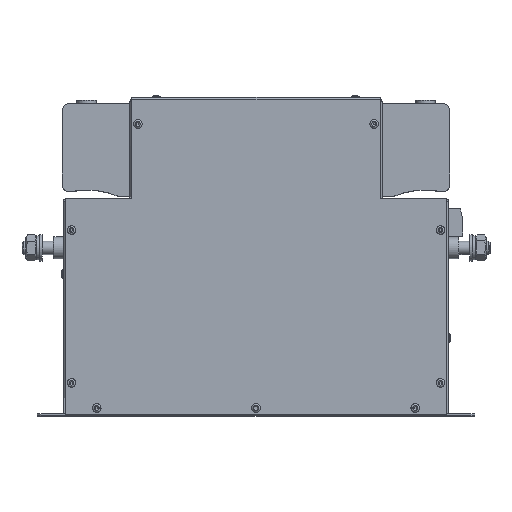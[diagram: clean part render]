
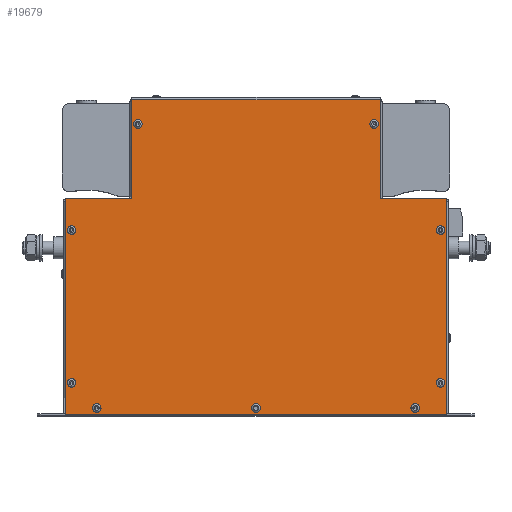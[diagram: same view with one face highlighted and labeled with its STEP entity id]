
A CAD part, top view. The second image highlights one B-rep face of the part: STEP entity #19679.
In plain terms, the highlighted planar face has unit normal (0, 0, 1).
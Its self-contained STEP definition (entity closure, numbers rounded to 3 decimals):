
#1487=LINE('',#33454,#2843);
#1490=LINE('',#33459,#2846);
#1492=LINE('',#33463,#2848);
#1493=LINE('',#33465,#2849);
#1494=LINE('',#33467,#2850);
#1495=LINE('',#33469,#2851);
#1496=LINE('',#33471,#2852);
#1497=LINE('',#33473,#2853);
#1498=LINE('',#33475,#2854);
#1499=LINE('',#33476,#2855);
#2843=VECTOR('',#26528,10.);
#2846=VECTOR('',#26533,10.);
#2848=VECTOR('',#26537,10.);
#2849=VECTOR('',#26538,10.);
#2850=VECTOR('',#26539,10.);
#2851=VECTOR('',#26540,10.);
#2852=VECTOR('',#26541,10.);
#2853=VECTOR('',#26542,10.);
#2854=VECTOR('',#26543,10.);
#2855=VECTOR('',#26544,10.);
#3947=FACE_BOUND('',#6698,.T.);
#3948=FACE_BOUND('',#6699,.T.);
#3949=FACE_BOUND('',#6700,.T.);
#3950=FACE_BOUND('',#6701,.T.);
#3951=FACE_BOUND('',#6702,.T.);
#3952=FACE_BOUND('',#6703,.T.);
#3953=FACE_BOUND('',#6704,.T.);
#3954=FACE_BOUND('',#6705,.T.);
#3955=FACE_BOUND('',#6706,.T.);
#5060=FACE_OUTER_BOUND('',#6697,.T.);
#6697=EDGE_LOOP('',(#16099,#16100,#16101,#16102,#16103,#16104,#16105,#16106,
#16107,#16108));
#6698=EDGE_LOOP('',(#16109));
#6699=EDGE_LOOP('',(#16110));
#6700=EDGE_LOOP('',(#16111));
#6701=EDGE_LOOP('',(#16112));
#6702=EDGE_LOOP('',(#16113));
#6703=EDGE_LOOP('',(#16114));
#6704=EDGE_LOOP('',(#16115));
#6705=EDGE_LOOP('',(#16116));
#6706=EDGE_LOOP('',(#16117));
#7289=CIRCLE('',#20655,3.25);
#7304=CIRCLE('',#20683,3.25);
#7319=CIRCLE('',#20711,3.25);
#7334=CIRCLE('',#20739,3.25);
#7349=CIRCLE('',#20767,3.25);
#7364=CIRCLE('',#20795,3.25);
#7379=CIRCLE('',#20823,3.25);
#7394=CIRCLE('',#20851,3.25);
#7409=CIRCLE('',#20879,3.25);
#8458=VERTEX_POINT('',#29773);
#8473=VERTEX_POINT('',#29846);
#8488=VERTEX_POINT('',#29919);
#8503=VERTEX_POINT('',#29992);
#8518=VERTEX_POINT('',#30065);
#8533=VERTEX_POINT('',#30138);
#8548=VERTEX_POINT('',#30211);
#8563=VERTEX_POINT('',#30284);
#8578=VERTEX_POINT('',#30357);
#9259=VERTEX_POINT('',#33452);
#9260=VERTEX_POINT('',#33453);
#9261=VERTEX_POINT('',#33458);
#9262=VERTEX_POINT('',#33462);
#9263=VERTEX_POINT('',#33464);
#9264=VERTEX_POINT('',#33466);
#9265=VERTEX_POINT('',#33468);
#9266=VERTEX_POINT('',#33470);
#9267=VERTEX_POINT('',#33472);
#9268=VERTEX_POINT('',#33474);
#10430=EDGE_CURVE('',#8458,#8458,#7289,.T.);
#10446=EDGE_CURVE('',#8473,#8473,#7304,.T.);
#10462=EDGE_CURVE('',#8488,#8488,#7319,.T.);
#10478=EDGE_CURVE('',#8503,#8503,#7334,.T.);
#10494=EDGE_CURVE('',#8518,#8518,#7349,.T.);
#10510=EDGE_CURVE('',#8533,#8533,#7364,.T.);
#10526=EDGE_CURVE('',#8548,#8548,#7379,.T.);
#10542=EDGE_CURVE('',#8563,#8563,#7394,.T.);
#10558=EDGE_CURVE('',#8578,#8578,#7409,.T.);
#11595=EDGE_CURVE('',#9259,#9260,#1487,.T.);
#11598=EDGE_CURVE('',#9260,#9261,#1490,.T.);
#11600=EDGE_CURVE('',#9259,#9262,#1492,.T.);
#11601=EDGE_CURVE('',#9262,#9263,#1493,.T.);
#11602=EDGE_CURVE('',#9263,#9264,#1494,.T.);
#11603=EDGE_CURVE('',#9264,#9265,#1495,.T.);
#11604=EDGE_CURVE('',#9265,#9266,#1496,.T.);
#11605=EDGE_CURVE('',#9267,#9266,#1497,.T.);
#11606=EDGE_CURVE('',#9268,#9267,#1498,.T.);
#11607=EDGE_CURVE('',#9261,#9268,#1499,.T.);
#16099=ORIENTED_EDGE('',*,*,#11595,.F.);
#16100=ORIENTED_EDGE('',*,*,#11600,.T.);
#16101=ORIENTED_EDGE('',*,*,#11601,.T.);
#16102=ORIENTED_EDGE('',*,*,#11602,.T.);
#16103=ORIENTED_EDGE('',*,*,#11603,.T.);
#16104=ORIENTED_EDGE('',*,*,#11604,.T.);
#16105=ORIENTED_EDGE('',*,*,#11605,.F.);
#16106=ORIENTED_EDGE('',*,*,#11606,.F.);
#16107=ORIENTED_EDGE('',*,*,#11607,.F.);
#16108=ORIENTED_EDGE('',*,*,#11598,.F.);
#16109=ORIENTED_EDGE('',*,*,#10430,.T.);
#16110=ORIENTED_EDGE('',*,*,#10446,.T.);
#16111=ORIENTED_EDGE('',*,*,#10462,.T.);
#16112=ORIENTED_EDGE('',*,*,#10478,.T.);
#16113=ORIENTED_EDGE('',*,*,#10494,.T.);
#16114=ORIENTED_EDGE('',*,*,#10510,.T.);
#16115=ORIENTED_EDGE('',*,*,#10526,.T.);
#16116=ORIENTED_EDGE('',*,*,#10542,.T.);
#16117=ORIENTED_EDGE('',*,*,#10558,.T.);
#17347=PLANE('',#21584);
#19679=ADVANCED_FACE('',(#5060,#3947,#3948,#3949,#3950,#3951,#3952,#3953,
#3954,#3955),#17347,.T.);
#20655=AXIS2_PLACEMENT_3D('',#29774,#23941,#23942);
#20683=AXIS2_PLACEMENT_3D('',#29847,#23997,#23998);
#20711=AXIS2_PLACEMENT_3D('',#29920,#24053,#24054);
#20739=AXIS2_PLACEMENT_3D('',#29993,#24109,#24110);
#20767=AXIS2_PLACEMENT_3D('',#30066,#24165,#24166);
#20795=AXIS2_PLACEMENT_3D('',#30139,#24221,#24222);
#20823=AXIS2_PLACEMENT_3D('',#30212,#24277,#24278);
#20851=AXIS2_PLACEMENT_3D('',#30285,#24333,#24334);
#20879=AXIS2_PLACEMENT_3D('',#30358,#24389,#24390);
#21584=AXIS2_PLACEMENT_3D('',#33461,#26535,#26536);
#23941=DIRECTION('center_axis',(0.,0.,
-1.));
#23942=DIRECTION('ref_axis',(0.945,-0.328,0.));
#23997=DIRECTION('center_axis',(0.,0.,
-1.));
#23998=DIRECTION('ref_axis',(0.945,-0.328,0.));
#24053=DIRECTION('center_axis',(0.,0.,
-1.));
#24054=DIRECTION('ref_axis',(1.,0.,0.));
#24109=DIRECTION('center_axis',(0.,0.,
-1.));
#24110=DIRECTION('ref_axis',(0.945,-0.328,0.));
#24165=DIRECTION('center_axis',(0.,0.,
-1.));
#24166=DIRECTION('ref_axis',(1.,0.,0.));
#24221=DIRECTION('center_axis',(0.,0.,
-1.));
#24222=DIRECTION('ref_axis',(1.,0.,0.));
#24277=DIRECTION('center_axis',(0.,0.,
-1.));
#24278=DIRECTION('ref_axis',(1.,0.,0.));
#24333=DIRECTION('center_axis',(0.,0.,
-1.));
#24334=DIRECTION('ref_axis',(1.,0.,0.));
#24389=DIRECTION('center_axis',(0.,0.,
-1.));
#24390=DIRECTION('ref_axis',(1.,0.,0.));
#26528=DIRECTION('',(0.707,-0.707,0.));
#26533=DIRECTION('',(0.,-1.,0.));
#26535=DIRECTION('center_axis',(0.,0.,
1.));
#26536=DIRECTION('ref_axis',(1.,0.,0.));
#26537=DIRECTION('',(-1.,0.,0.));
#26538=DIRECTION('',(0.,1.,0.));
#26539=DIRECTION('',(-1.,0.,0.));
#26540=DIRECTION('',(0.,-1.,0.));
#26541=DIRECTION('',(-1.,0.,0.));
#26542=DIRECTION('',(0.707,0.707,0.));
#26543=DIRECTION('',(0.,1.,0.));
#26544=DIRECTION('',(-1.,0.,0.));
#29773=CARTESIAN_POINT('',(135.93,26.067,49.75));
#29774=CARTESIAN_POINT('Origin',(139.,25.,49.75));
#29846=CARTESIAN_POINT('',(135.93,141.067,49.75));
#29847=CARTESIAN_POINT('Origin',(139.,140.,49.75));
#29919=CARTESIAN_POINT('',(116.75,6.001,49.75));
#29920=CARTESIAN_POINT('Origin',(120.,6.,49.75));
#29992=CARTESIAN_POINT('',(85.93,221.067,49.75));
#29993=CARTESIAN_POINT('Origin',(89.,220.,49.75));
#30065=CARTESIAN_POINT('',(-123.25,6.001,49.75));
#30066=CARTESIAN_POINT('Origin',(-120.,6.,49.75));
#30138=CARTESIAN_POINT('',(-3.25,6.001,49.75));
#30139=CARTESIAN_POINT('Origin',(0.,6.,
49.75));
#30211=CARTESIAN_POINT('',(-142.25,25.001,49.75));
#30212=CARTESIAN_POINT('Origin',(-139.,25.,49.75));
#30284=CARTESIAN_POINT('',(-142.25,140.001,49.75));
#30285=CARTESIAN_POINT('Origin',(-139.,140.,49.75));
#30357=CARTESIAN_POINT('',(-92.25,220.001,49.75));
#30358=CARTESIAN_POINT('Origin',(-89.,220.,49.75));
#33452=CARTESIAN_POINT('',(142.5,164.,49.75));
#33453=CARTESIAN_POINT('',(143.5,163.,49.75));
#33454=CARTESIAN_POINT('',(118.,188.5,49.75));
#33458=CARTESIAN_POINT('',(143.5,1.,49.75));
#33459=CARTESIAN_POINT('',(143.5,1.,49.75));
#33461=CARTESIAN_POINT('Origin',(0.,120.5,49.75));
#33462=CARTESIAN_POINT('',(93.5,164.,49.75));
#33463=CARTESIAN_POINT('',(71.75,164.,49.75));
#33464=CARTESIAN_POINT('',(93.5,238.2,49.75));
#33465=CARTESIAN_POINT('',(93.5,142.25,49.75));
#33466=CARTESIAN_POINT('',(-93.5,238.2,49.75));
#33467=CARTESIAN_POINT('',(46.75,238.2,49.75));
#33468=CARTESIAN_POINT('',(-93.5,164.,49.75));
#33469=CARTESIAN_POINT('',(-93.5,180.25,49.75));
#33470=CARTESIAN_POINT('',(-142.5,164.,49.75));
#33471=CARTESIAN_POINT('',(-46.75,164.,49.75));
#33472=CARTESIAN_POINT('',(-143.5,163.,49.75));
#33473=CARTESIAN_POINT('',(-118.,188.5,49.75));
#33474=CARTESIAN_POINT('',(-143.5,1.,49.75));
#33475=CARTESIAN_POINT('',(-143.5,240.,49.75));
#33476=CARTESIAN_POINT('',(-143.5,1.,49.75));
